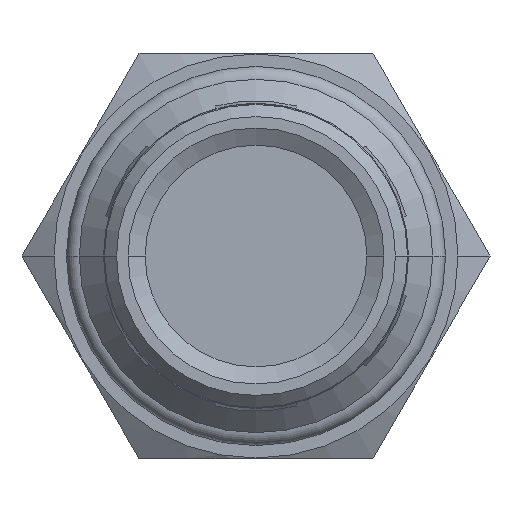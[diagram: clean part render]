
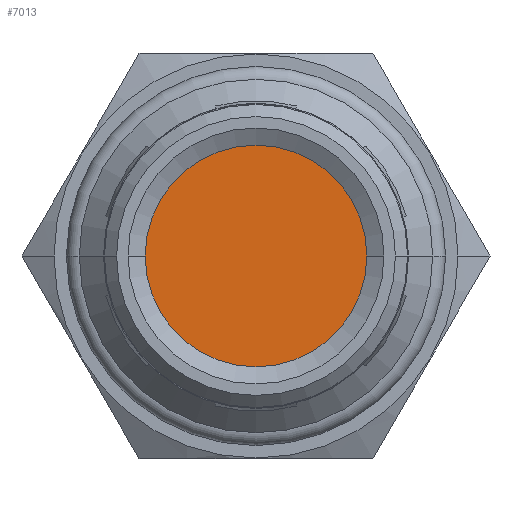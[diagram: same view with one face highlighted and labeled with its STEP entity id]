
A CAD part, front view. The second image highlights one B-rep face of the part: STEP entity #7013.
In plain terms, the highlighted planar face has unit normal (0, -1, 0).
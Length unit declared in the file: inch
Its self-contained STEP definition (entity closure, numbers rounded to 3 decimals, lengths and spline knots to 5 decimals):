
#4599=CARTESIAN_POINT('',(0.,-1.7784,0.));
#4600=DIRECTION('',(0.,1.,0.));
#4601=DIRECTION('',(-1.,0.,0.));
#4602=AXIS2_PLACEMENT_3D('',#4599,#4600,#4601);
#4607=CARTESIAN_POINT('',(0.,-1.7784,0.));
#4608=DIRECTION('',(0.,1.,0.));
#4609=DIRECTION('',(1.,0.,0.));
#4610=AXIS2_PLACEMENT_3D('',#4607,#4608,#4609);
#4825=CARTESIAN_POINT('',(-0.41018,-1.7784,0.));
#4826=CARTESIAN_POINT('',(0.41018,-1.7784,0.));
#4827=VERTEX_POINT('',#4825);
#4828=VERTEX_POINT('',#4826);
#7003=CARTESIAN_POINT('',(0.,-1.7784,0.));
#7004=DIRECTION('',(0.,1.,0.));
#7005=DIRECTION('',(1.,0.,0.));
#7006=AXIS2_PLACEMENT_3D('',#7003,#7004,#7005);
#7007=PLANE('',#7006);
#7008=ORIENTED_EDGE('',*,*,#6986,.T.);
#7010=ORIENTED_EDGE('',*,*,#7009,.T.);
#7011=EDGE_LOOP('',(#7008,#7010));
#7012=FACE_OUTER_BOUND('',#7011,.F.);
#4603=CIRCLE('',#4602,0.41018);
#4611=CIRCLE('',#4610,0.41018);
#6986=EDGE_CURVE('',#4827,#4828,#4603,.T.);
#7009=EDGE_CURVE('',#4828,#4827,#4611,.T.);
#7013=ADVANCED_FACE('',(#7012),#7007,.F.);
